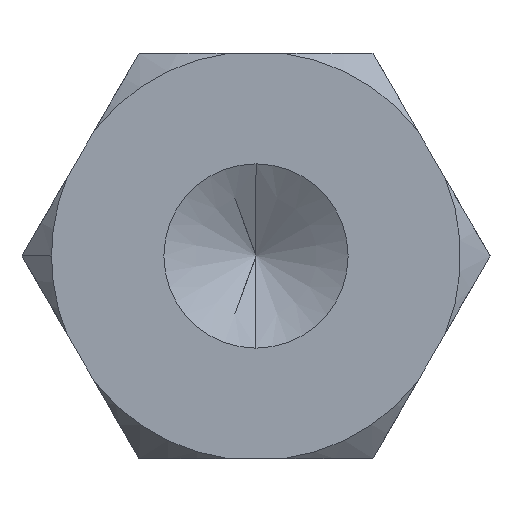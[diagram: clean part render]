
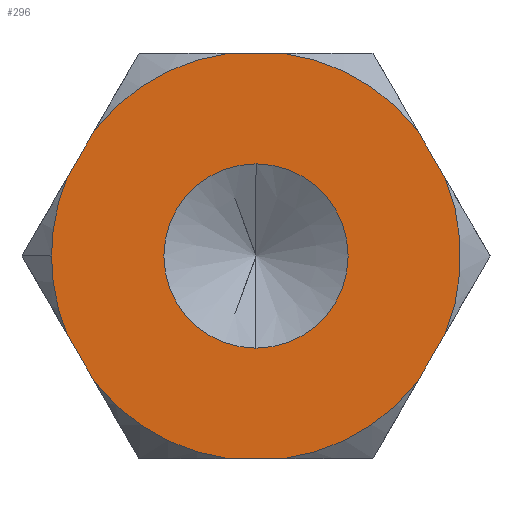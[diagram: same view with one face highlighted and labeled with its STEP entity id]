
A CAD part, front view. The second image highlights one B-rep face of the part: STEP entity #296.
In plain terms, the highlighted planar face has unit normal (0, -1, 0).
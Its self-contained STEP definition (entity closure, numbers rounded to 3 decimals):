
#8 = AXIS2_PLACEMENT_3D ( 'NONE', #788, #15, #1049 ) ;
#15 = DIRECTION ( 'NONE',  ( 0., -1., 0. ) ) ;
#32 = DIRECTION ( 'NONE',  ( 0., -1., 0. ) ) ;
#33 = LINE ( 'NONE', #283, #604 ) ;
#36 = DIRECTION ( 'NONE',  ( 0., 0., 1. ) ) ;
#41 = CARTESIAN_POINT ( 'NONE',  ( 1.588, 0., -2.75 ) ) ;
#50 = EDGE_CURVE ( 'NONE', #1105, #252, #708, .T. ) ;
#52 = CARTESIAN_POINT ( 'NONE',  ( -2.194, 0., -1.7 ) ) ;
#55 = VECTOR ( 'NONE', #963, 1000. ) ;
#67 = ORIENTED_EDGE ( 'NONE', *, *, #1116, .F. ) ;
#80 = CARTESIAN_POINT ( 'NONE',  ( -0.375, 0., -2.75 ) ) ;
#82 = CARTESIAN_POINT ( 'NONE',  ( 2.569, 0., -1.05 ) ) ;
#100 = EDGE_CURVE ( 'NONE', #843, #954, #554, .T. ) ;
#101 = VERTEX_POINT ( 'NONE', #777 ) ;
#126 = CARTESIAN_POINT ( 'NONE',  ( -2.775, 0., 0. ) ) ;
#129 = FACE_OUTER_BOUND ( 'NONE', #1040, .T. ) ;
#135 = DIRECTION ( 'NONE',  ( 0., -1., 0. ) ) ;
#138 = CARTESIAN_POINT ( 'NONE',  ( 2.194, 0., -1.7 ) ) ;
#141 = CARTESIAN_POINT ( 'NONE',  ( 0., 0., 0. ) ) ;
#151 = VERTEX_POINT ( 'NONE', #478 ) ;
#163 = CIRCLE ( 'NONE', #901, 1.25 ) ;
#180 = VERTEX_POINT ( 'NONE', #806 ) ;
#182 = AXIS2_PLACEMENT_3D ( 'NONE', #141, #836, #915 ) ;
#185 = DIRECTION ( 'NONE',  ( 0., -1., 0. ) ) ;
#186 = EDGE_CURVE ( 'NONE', #514, #1118, #33, .T. ) ;
#199 = CARTESIAN_POINT ( 'NONE',  ( -2.569, 0., 1.05 ) ) ;
#203 = AXIS2_PLACEMENT_3D ( 'NONE', #1012, #505, #578 ) ;
#204 = CARTESIAN_POINT ( 'NONE',  ( 2.194, 0., 1.7 ) ) ;
#213 = ORIENTED_EDGE ( 'NONE', *, *, #100, .T. ) ;
#231 = EDGE_LOOP ( 'NONE', ( #673, #656 ) ) ;
#234 = DIRECTION ( 'NONE',  ( 0., 0., -1. ) ) ;
#237 = AXIS2_PLACEMENT_3D ( 'NONE', #577, #135, #234 ) ;
#252 = VERTEX_POINT ( 'NONE', #816 ) ;
#270 = CARTESIAN_POINT ( 'NONE',  ( -2.194, 0., 1.7 ) ) ;
#283 = CARTESIAN_POINT ( 'NONE',  ( 3.175, 0., 0. ) ) ;
#287 = DIRECTION ( 'NONE',  ( -0.5, 0., -0.866 ) ) ;
#296 = ADVANCED_FACE ( 'NONE', ( #1006, #129 ), #672, .F. ) ;
#311 = ORIENTED_EDGE ( 'NONE', *, *, #619, .F. ) ;
#316 = ORIENTED_EDGE ( 'NONE', *, *, #50, .T. ) ;
#319 = DIRECTION ( 'NONE',  ( 0., 0., 1. ) ) ;
#336 = EDGE_CURVE ( 'NONE', #586, #1118, #1109, .T. ) ;
#348 = EDGE_CURVE ( 'NONE', #747, #502, #723, .T. ) ;
#358 = CARTESIAN_POINT ( 'NONE',  ( -1.588, 0., 2.75 ) ) ;
#363 = VECTOR ( 'NONE', #480, 1000. ) ;
#373 = LINE ( 'NONE', #1052, #55 ) ;
#395 = ORIENTED_EDGE ( 'NONE', *, *, #695, .T. ) ;
#417 = DIRECTION ( 'NONE',  ( 0., -1., 0. ) ) ;
#455 = CARTESIAN_POINT ( 'NONE',  ( 0., 0., 0. ) ) ;
#459 = VERTEX_POINT ( 'NONE', #1114 ) ;
#462 = EDGE_CURVE ( 'NONE', #681, #459, #1022, .T. ) ;
#467 = DIRECTION ( 'NONE',  ( 0., 0., 1. ) ) ;
#473 = DIRECTION ( 'NONE',  ( 0., -1., 0. ) ) ;
#478 = CARTESIAN_POINT ( 'NONE',  ( 0., 0., -1.25 ) ) ;
#480 = DIRECTION ( 'NONE',  ( 0.5, 0., 0.866 ) ) ;
#481 = ORIENTED_EDGE ( 'NONE', *, *, #186, .F. ) ;
#483 = CARTESIAN_POINT ( 'NONE',  ( -0.375, 0., 2.75 ) ) ;
#484 = CARTESIAN_POINT ( 'NONE',  ( 0., 0., 0. ) ) ;
#491 = CIRCLE ( 'NONE', #182, 2.775 ) ;
#497 = DIRECTION ( 'NONE',  ( 0., -1., 0. ) ) ;
#502 = VERTEX_POINT ( 'NONE', #270 ) ;
#505 = DIRECTION ( 'NONE',  ( 0., 1., 0. ) ) ;
#512 = ORIENTED_EDGE ( 'NONE', *, *, #620, .F. ) ;
#514 = VERTEX_POINT ( 'NONE', #82 ) ;
#517 = VECTOR ( 'NONE', #523, 1000. ) ;
#523 = DIRECTION ( 'NONE',  ( 0.5, 0., -0.866 ) ) ;
#547 = ORIENTED_EDGE ( 'NONE', *, *, #647, .T. ) ;
#554 = CIRCLE ( 'NONE', #8, 2.775 ) ;
#575 = EDGE_CURVE ( 'NONE', #747, #180, #782, .T. ) ;
#577 = CARTESIAN_POINT ( 'NONE',  ( 0., 0., 0. ) ) ;
#578 = DIRECTION ( 'NONE',  ( 0., 0., 1. ) ) ;
#583 = AXIS2_PLACEMENT_3D ( 'NONE', #484, #497, #837 ) ;
#586 = VERTEX_POINT ( 'NONE', #764 ) ;
#604 = VECTOR ( 'NONE', #287, 1000. ) ;
#608 = CARTESIAN_POINT ( 'NONE',  ( 1.588, 0., 2.75 ) ) ;
#613 = DIRECTION ( 'NONE',  ( 0., 0., 1. ) ) ;
#617 = DIRECTION ( 'NONE',  ( 0., -1., 0. ) ) ;
#619 = EDGE_CURVE ( 'NONE', #843, #252, #373, .T. ) ;
#620 = EDGE_CURVE ( 'NONE', #586, #954, #798, .T. ) ;
#628 = VERTEX_POINT ( 'NONE', #199 ) ;
#637 = AXIS2_PLACEMENT_3D ( 'NONE', #1043, #185, #613 ) ;
#647 = EDGE_CURVE ( 'NONE', #514, #459, #992, .T. ) ;
#656 = ORIENTED_EDGE ( 'NONE', *, *, #818, .F. ) ;
#664 = ORIENTED_EDGE ( 'NONE', *, *, #348, .T. ) ;
#672 = PLANE ( 'NONE',  #203 ) ;
#673 = ORIENTED_EDGE ( 'NONE', *, *, #1103, .F. ) ;
#681 = VERTEX_POINT ( 'NONE', #204 ) ;
#688 = ORIENTED_EDGE ( 'NONE', *, *, #575, .F. ) ;
#693 = DIRECTION ( 'NONE',  ( 1., 0., 0. ) ) ;
#695 = EDGE_CURVE ( 'NONE', #681, #180, #900, .T. ) ;
#708 = CIRCLE ( 'NONE', #637, 2.775 ) ;
#718 = CIRCLE ( 'NONE', #237, 1.25 ) ;
#723 = CIRCLE ( 'NONE', #583, 2.775 ) ;
#732 = EDGE_CURVE ( 'NONE', #628, #1105, #491, .T. ) ;
#747 = VERTEX_POINT ( 'NONE', #483 ) ;
#764 = CARTESIAN_POINT ( 'NONE',  ( 0.375, 0., -2.75 ) ) ;
#776 = AXIS2_PLACEMENT_3D ( 'NONE', #455, #473, #36 ) ;
#777 = CARTESIAN_POINT ( 'NONE',  ( 0., 0., 1.25 ) ) ;
#782 = LINE ( 'NONE', #358, #1036 ) ;
#788 = CARTESIAN_POINT ( 'NONE',  ( 0., 0., 0. ) ) ;
#798 = LINE ( 'NONE', #41, #1080 ) ;
#806 = CARTESIAN_POINT ( 'NONE',  ( 0.375, 0., 2.75 ) ) ;
#816 = CARTESIAN_POINT ( 'NONE',  ( -2.569, 0., -1.05 ) ) ;
#818 = EDGE_CURVE ( 'NONE', #101, #151, #718, .T. ) ;
#836 = DIRECTION ( 'NONE',  ( 0., -1., 0. ) ) ;
#837 = DIRECTION ( 'NONE',  ( 0., 0., 1. ) ) ;
#843 = VERTEX_POINT ( 'NONE', #52 ) ;
#847 = AXIS2_PLACEMENT_3D ( 'NONE', #897, #32, #467 ) ;
#869 = ORIENTED_EDGE ( 'NONE', *, *, #336, .T. ) ;
#891 = CARTESIAN_POINT ( 'NONE',  ( 0., 0., 0. ) ) ;
#897 = CARTESIAN_POINT ( 'NONE',  ( 0., 0., 0. ) ) ;
#900 = CIRCLE ( 'NONE', #776, 2.775 ) ;
#901 = AXIS2_PLACEMENT_3D ( 'NONE', #891, #617, #968 ) ;
#908 = CARTESIAN_POINT ( 'NONE',  ( -3.175, 0., 0. ) ) ;
#912 = ORIENTED_EDGE ( 'NONE', *, *, #462, .F. ) ;
#915 = DIRECTION ( 'NONE',  ( 0., 0., 1. ) ) ;
#954 = VERTEX_POINT ( 'NONE', #80 ) ;
#963 = DIRECTION ( 'NONE',  ( -0.5, 0., 0.866 ) ) ;
#968 = DIRECTION ( 'NONE',  ( 0., 0., -1. ) ) ;
#974 = DIRECTION ( 'NONE',  ( -1., 0., 0. ) ) ;
#989 = LINE ( 'NONE', #908, #363 ) ;
#992 = CIRCLE ( 'NONE', #847, 2.775 ) ;
#996 = CARTESIAN_POINT ( 'NONE',  ( 0., 0., 0. ) ) ;
#1006 = FACE_BOUND ( 'NONE', #231, .T. ) ;
#1012 = CARTESIAN_POINT ( 'NONE',  ( 0., 0., 0. ) ) ;
#1022 = LINE ( 'NONE', #608, #517 ) ;
#1036 = VECTOR ( 'NONE', #693, 1000. ) ;
#1040 = EDGE_LOOP ( 'NONE', ( #688, #664, #67, #1077, #316, #311, #213, #512, #869, #481, #547, #912, #395 ) ) ;
#1043 = CARTESIAN_POINT ( 'NONE',  ( 0., 0., 0. ) ) ;
#1049 = DIRECTION ( 'NONE',  ( 0., 0., 1. ) ) ;
#1052 = CARTESIAN_POINT ( 'NONE',  ( -1.588, 0., -2.75 ) ) ;
#1073 = AXIS2_PLACEMENT_3D ( 'NONE', #996, #417, #319 ) ;
#1077 = ORIENTED_EDGE ( 'NONE', *, *, #732, .T. ) ;
#1080 = VECTOR ( 'NONE', #974, 1000. ) ;
#1103 = EDGE_CURVE ( 'NONE', #151, #101, #163, .T. ) ;
#1105 = VERTEX_POINT ( 'NONE', #126 ) ;
#1109 = CIRCLE ( 'NONE', #1073, 2.775 ) ;
#1114 = CARTESIAN_POINT ( 'NONE',  ( 2.569, 0., 1.05 ) ) ;
#1116 = EDGE_CURVE ( 'NONE', #628, #502, #989, .T. ) ;
#1118 = VERTEX_POINT ( 'NONE', #138 ) ;
